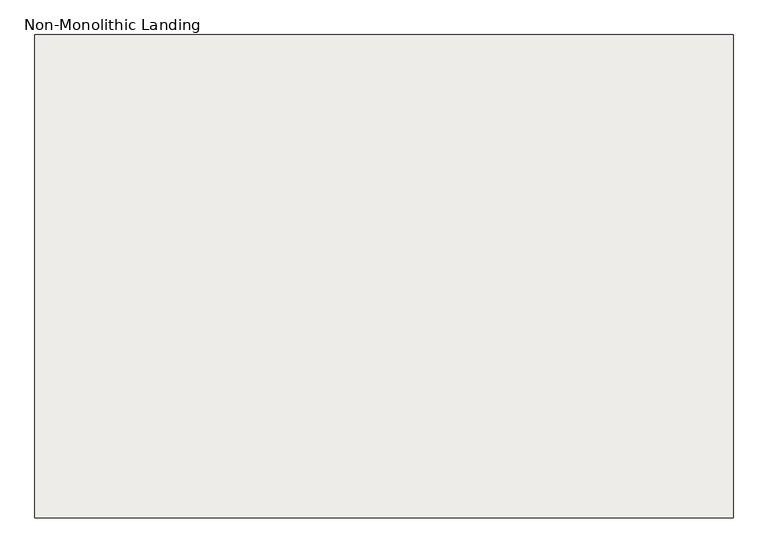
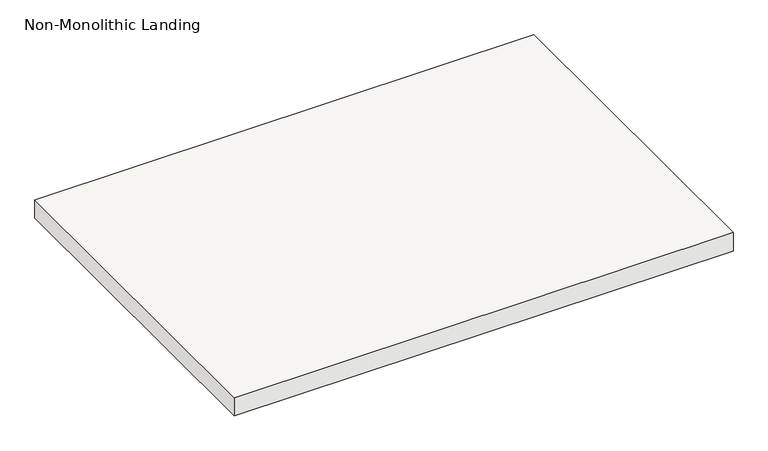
"""IFC4 building model written with IfcOpenShell, lengths in millimetres: slab geometry, Non-Monolithic Landing."""

import ifcopenshell
import ifcopenshell.guid

model = None  # the IFC model being written
_history = None  # IfcOwnerHistory: only IFC2X3 demands one
_inside = {}  # id of a spatial element -> (the spatial element, [elements in it])
_under = {}  # id of a project, library or spatial element -> (it, [spatial elements below it])
_declared = {}  # id of a project -> (the project, [libraries it declares])
_typed = {}  # id of a type object -> (the type object, [elements of that type])
_made_of = {}  # id of a material, layer set ... -> (it, [elements and type objects made of it])


def new_model(schema):
    """Start an empty IFC model of exactly this schema.

    Asked for "IFC4X3", IfcOpenShell would pick the latest addendum, in which some entities
    have other attributes; the version numbers below select the first issue.
    IFC2X3 requires an IfcOwnerHistory on every rooted entity: one is made here for all.
    """
    global model, _history
    if schema == "IFC4X3":
        model = ifcopenshell.file(schema_version=(4, 3, 0, 0))
    else:
        model = ifcopenshell.file(schema=schema)
    _inside.clear()
    _under.clear()
    _declared.clear()
    _typed.clear()
    _made_of.clear()
    _history = None
    if model.schema == "IFC2X3":
        org = make("IfcOrganization", Name="unknown")
        user = make(
            "IfcPersonAndOrganization",
            ThePerson=make("IfcPerson", FamilyName="unknown"),
            TheOrganization=org,
        )
        app = make(
            "IfcApplication",
            ApplicationDeveloper=org,
            Version="unknown",
            ApplicationFullName="unknown",
            ApplicationIdentifier="unknown",
        )
        _history = make(
            "IfcOwnerHistory",
            OwningUser=user,
            OwningApplication=app,
            ChangeAction="ADDED",
            CreationDate=0,
        )
    return model


def make(cls, **values):
    """One entity of the class cls with the attributes given. An attribute that is None is left unset."""
    return model.create_entity(
        cls, **{name: value for name, value in values.items() if value is not None}
    )


def rooted(cls, **values):
    """An entity with a GlobalId (a new one), such as an element, a storey or a relation."""
    return make(cls, GlobalId=ifcopenshell.guid.new(), OwnerHistory=_history, **values)


def si_unit(unit_type, name, prefix=None):
    """IfcSIUnit, for example si_unit("LENGTHUNIT", "METRE", prefix="MILLI")."""
    return make("IfcSIUnit", UnitType=unit_type, Prefix=prefix, Name=name)


def assignment(units):
    """IfcUnitAssignment: the units of a project."""
    return None if units is None else make("IfcUnitAssignment", Units=units)


def point(xyz):
    """IfcCartesianPoint."""
    return None if xyz is None else make("IfcCartesianPoint", Coordinates=xyz)


def direction(xyz):
    """IfcDirection."""
    return None if xyz is None else make("IfcDirection", DirectionRatios=xyz)


def frame(location, z_axis=None, x_axis=None):
    """IfcAxis2Placement3D, a coordinate frame: its origin and axes. An axis left out is left unset."""
    return make(
        "IfcAxis2Placement3D",
        Location=point(location),
        Axis=direction(z_axis),
        RefDirection=direction(x_axis),
    )


def origin():
    """The frame at (0, 0, 0) with its axes left unset."""
    return frame((0.0, 0.0, 0.0))


def place(relative_to, where):
    """IfcLocalPlacement: puts the frame where relative to a parent placement (None: the world)."""
    return make(
        "IfcLocalPlacement", PlacementRelTo=relative_to, RelativePlacement=where
    )


def context(
    kind, dimensions, precision=None, world=None, true_north=None, identifier=None
):
    """IfcGeometricRepresentationContext, for example the 3D "Model" context."""
    return make(
        "IfcGeometricRepresentationContext",
        ContextIdentifier=identifier,
        ContextType=kind,
        CoordinateSpaceDimension=dimensions,
        Precision=precision,
        WorldCoordinateSystem=world,
        TrueNorth=true_north,
    )


def project(units=None, contexts=None):
    """IfcProject with its units and contexts."""
    return rooted(
        "IfcProject",
        Name="project",
        RepresentationContexts=contexts,
        UnitsInContext=assignment(units),
    )


def spatial(cls, under=None, at=None, **own):
    """A site, building, storey or space (cls), placed at a placement, below another one or the project."""
    s = rooted(cls, ObjectPlacement=at, **own)
    if under is not None:
        _under.setdefault(under.id(), (under, []))[1].append(s)
    return s


def polyline(points):
    """IfcPolyline through the points."""
    return make("IfcPolyline", Points=[point(p) for p in points])


def outline(outer, holes=None, kind="AREA"):
    """IfcArbitraryClosedProfileDef: a profile drawn as a closed curve; with holes, ...WithVoids."""
    if holes is None:
        return make("IfcArbitraryClosedProfileDef", ProfileType=kind, OuterCurve=outer)
    return make(
        "IfcArbitraryProfileDefWithVoids",
        ProfileType=kind,
        OuterCurve=outer,
        InnerCurves=holes,
    )


def extrude(swept, where, along, depth):
    """IfcExtrudedAreaSolid: the profile swept, set in the frame where, extruded along a direction by depth."""
    return make(
        "IfcExtrudedAreaSolid",
        SweptArea=swept,
        Position=where,
        ExtrudedDirection=direction(along),
        Depth=depth,
    )


def shape(context_of_items, identifier, shape_type, items):
    """IfcShapeRepresentation: the items that make up one representation, for example the "Body"."""
    return make(
        "IfcShapeRepresentation",
        ContextOfItems=context_of_items,
        RepresentationIdentifier=identifier,
        RepresentationType=shape_type,
        Items=items,
    )


def source(mapping_origin, context_of_items, identifier, shape_type, items):
    """IfcRepresentationMap: a shape defined once, which mapped items show again and again."""
    return make(
        "IfcRepresentationMap",
        MappingOrigin=mapping_origin,
        MappedRepresentation=shape(context_of_items, identifier, shape_type, items),
    )


def transform(
    local_origin,
    x_axis=None,
    y_axis=None,
    z_axis=None,
    scale=None,
    scale2=None,
    scale3=None,
    uniform=True,
):
    """IfcCartesianTransformationOperator3D, or its non-uniform kind. x_axis, y_axis, z_axis: its Axis1, 2, 3."""
    if uniform:
        return make(
            "IfcCartesianTransformationOperator3D",
            Axis1=direction(x_axis),
            Axis2=direction(y_axis),
            LocalOrigin=point(local_origin),
            Scale=scale,
            Axis3=direction(z_axis),
        )
    return make(
        "IfcCartesianTransformationOperator3DnonUniform",
        Axis1=direction(x_axis),
        Axis2=direction(y_axis),
        LocalOrigin=point(local_origin),
        Scale=scale,
        Axis3=direction(z_axis),
        Scale2=scale2,
        Scale3=scale3,
    )


def mapped(mapping_source, mapping_target):
    """IfcMappedItem: shows the shape of a source again, moved by a transform."""
    return make(
        "IfcMappedItem", MappingSource=mapping_source, MappingTarget=mapping_target
    )


def made_of(thing, what):
    """Note that an element or type object is made of a material, layer set ...; save() writes the relation."""
    if what is not None:
        _made_of.setdefault(what.id(), (what, []))[1].append(thing)
    return thing


def element(
    cls,
    number,
    at=None,
    inside=None,
    cuts=None,
    type_object=None,
    material=None,
    context=None,
    identifier="Body",
    shape_type=None,
    held_by="IfcProductDefinitionShape",
    body=None,
    shapes=None,
    **own,
):
    """One element of the class cls, such as IfcWall. Its Tag is "e" and its number.

    at: its placement. inside: the storey or other place that contains it. cuts: it is an
    opening in that element (IfcRelVoidsElement). A single representation is given by context,
    identifier, shape_type and body (its items); several are given by shapes. held_by: the class
    of the entity that holds the representations. save() writes the other relations.
    """
    e = rooted(cls, Tag="e%d" % number, ObjectPlacement=at, **own)
    if body is not None:
        shapes = [shape(context, identifier, shape_type, body)]
    if shapes is not None:
        e.Representation = make(held_by, Representations=shapes)
    if inside is not None:
        _inside.setdefault(inside.id(), (inside, []))[1].append(e)
    if cuts is not None:
        rooted(
            "IfcRelVoidsElement", RelatingBuildingElement=cuts, RelatedOpeningElement=e
        )
    if type_object is not None:
        _typed.setdefault(type_object.id(), (type_object, []))[1].append(e)
    return made_of(e, material)


def aggregate(whole, parts):
    """IfcRelAggregates: a whole, such as a stair, and the parts it consists of."""
    return rooted("IfcRelAggregates", RelatingObject=whole, RelatedObjects=parts)


def save(model, path):
    """Write the relations noted so far, then the file.

    IfcRelAggregates (storeys below a building ...), IfcRelContainedInSpatialStructure (elements
    in a storey), IfcRelDefinesByType, IfcRelAssociatesMaterial and IfcRelDeclares: one each for
    every whole, place, type object, material and project.
    """
    for whole, parts in _under.values():
        aggregate(whole, parts)
    for where, things in _inside.values():
        rooted(
            "IfcRelContainedInSpatialStructure",
            RelatedElements=things,
            RelatingStructure=where,
        )
    for kind, things in _typed.values():
        rooted("IfcRelDefinesByType", RelatedObjects=things, RelatingType=kind)
    for what, things in _made_of.values():
        rooted("IfcRelAssociatesMaterial", RelatedObjects=things, RelatingMaterial=what)
    for by, libraries in _declared.values():
        rooted("IfcRelDeclares", RelatingContext=by, RelatedDefinitions=libraries)
    model.write(path)


def non_monolithic_landing_fe87bfb6(model_context):
    return source(origin(), model_context, "Body", "SweptSolid", [
        extrude(outline(polyline([(112702.0882982, 34841.5265585), (114022.8882982, 34841.5265585), (114022.8882982, 33927.1265585), (112702.0882982, 33927.1265585), (112702.0882982, 34841.5265585)])), frame((0.0, 0.0, 2126.3428571), z_axis=(0.0, 0.0, 1.0), x_axis=(1.0, 0.0, 0.0)), (0.0, 0.0, 1.0), 50.8),
    ])


if __name__ == "__main__":
    model = new_model("IFC4")
    model_context = context("Model", 3, world=origin())
    ifc_project = project(units=[si_unit("LENGTHUNIT", "METRE", prefix="MILLI")], contexts=[model_context])
    site = spatial("IfcSite", under=ifc_project)
    building = spatial("IfcBuilding", under=site)
    placement = place(None, origin())
    non_monolithic_landing_shape = non_monolithic_landing_fe87bfb6(model_context)
    element("IfcSlab", 1, ObjectType="Non-Monolithic Landing", at=placement, inside=building, context=model_context, shape_type="MappedRepresentation", body=[
        mapped(non_monolithic_landing_shape, transform((0.0, 0.0, 0.0), x_axis=(1.0, 0.0, 0.0), y_axis=(0.0, 1.0, 0.0), z_axis=(0.0, 0.0, 1.0))),
    ])
    save(model, "model.ifc")
